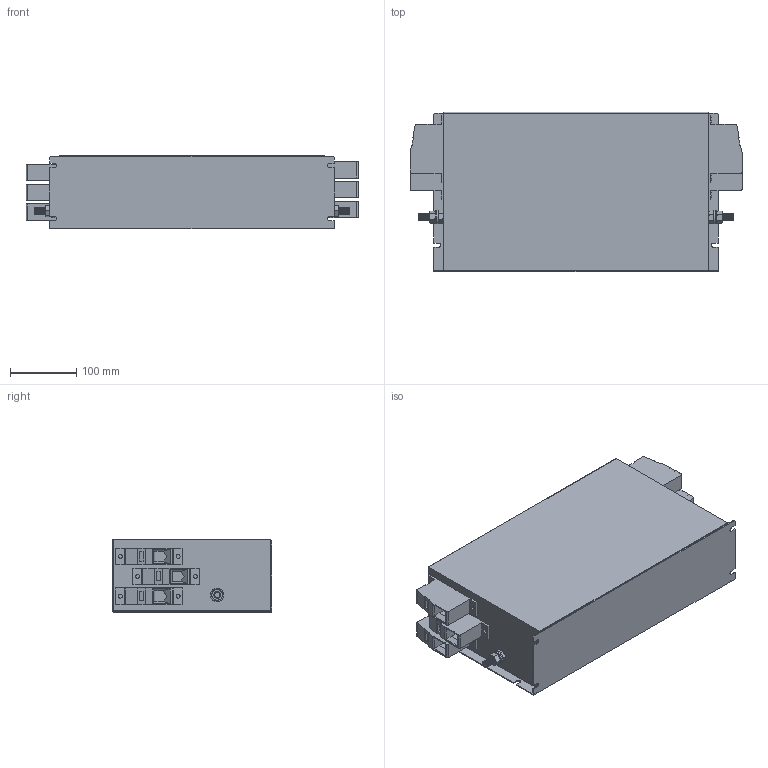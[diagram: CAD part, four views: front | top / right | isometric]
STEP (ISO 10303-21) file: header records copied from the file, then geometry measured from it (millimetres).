
FILE_DESCRIPTION (( 'STEP AP203' ), '1' );
FILE_NAME ('NF-R-180.STEP', '2022-02-11T08:39:22', ( '' ), ( '' ), 'SwSTEP 2.0', 'SolidWorks 2017', '' );
FILE_SCHEMA (( 'CONFIG_CONTROL_DESIGN' ));
Length unit declared in the file: millimetre
Products named in the file (8): NF-R-180; hex screw_am_B18.6.7M - M10 x 1.5 x 30 Indented HHMS --30S; HDFK-95; M10x30 Earth post; 5mm Rivet; flat washer narrow_am_B18.22M - Plain washer, 10 mm, narrow; hex nut style 1_am_B18.2.4.1M - Hex nut, Style 1,  M10 x 1.5, with 16mm WAF --D-N; NF-R-130 & 180
Assembly tree (19 placements, depth 3):
  NF-R-130 & 180
    NF-R-180
    M10x30 Earth post  x2
      flat washer narrow_am_B18.22M - Plain washer, 10 mm, narrow
      hex nut style 1_am_B18.2.4.1M - Hex nut, Style 1,  M10 x 1.5, with 16mm WAF --D-N
      hex screw_am_B18.6.7M - M10 x 1.5 x 30 Indented HHMS --30S
    HDFK-95  x6
    5mm Rivet  x6
Bounding box: 500 x 240 x 110 mm (x, y, z)
Volume: 10816487.8 mm3; surface area: 565544.4 mm2
Topology: 21 solids, 21 shells, 979 faces, 2449 edges, 1562 vertices
Faces by surface type: plane 525, cylinder 228, cone 212, torus 12, sphere 2
Entity records: 11561 total; most frequent: CARTESIAN_POINT 1973, DIRECTION 1851, ORIENTED_EDGE 1718, EDGE_CURVE 859, AXIS2_PLACEMENT_3D 670, VERTEX_POINT 544, VECTOR 511, LINE 511
